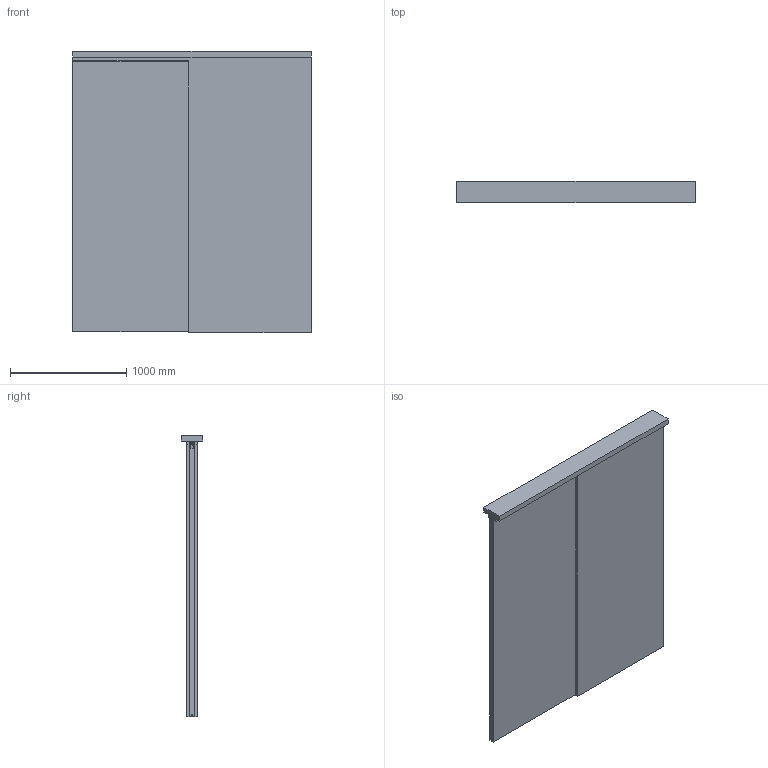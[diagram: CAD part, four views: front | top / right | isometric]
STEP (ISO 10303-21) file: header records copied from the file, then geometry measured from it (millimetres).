
FILE_DESCRIPTION(('STEP AP242'),'1');
FILE_NAME('OPO_65.080.12.stp','2026-01-14T05:25:52',(' '),(' '),'Spatial InterOp 3D',' ',' ');
FILE_SCHEMA(('AP242_MANAGED_MODEL_BASED_3D_ENGINEERING_MIM_LF {1 0 10303 442 1 1 4}'));
Length unit declared in the file: millimetre
Products named in the file (6): Zeichnung2; OPO_65.082.78; OPO_65.080.12_Laufwerk; OPO_65.080.12_Aufhaengung_minimal_Holz; OPO_65.082.75; AutoCreatedBlock_EA
Assembly tree (8 placements, depth 2):
  Zeichnung2
    OPO_65.082.78  x2
    OPO_65.080.12_Laufwerk  x2
    OPO_65.080.12_Aufhaengung_minimal_Holz  x2
    OPO_65.082.75
    AutoCreatedBlock_EA
Bounding box: 2050 x 188 x 2418 mm (x, y, z)
Volume: 213979731.5 mm3; surface area: 17223579.1 mm2
Topology: 66 solids, 66 shells, 1022 faces, 2560 edges, 1696 vertices
Faces by surface type: plane 594, cylinder 404, cone 24
Entity records: 23066 total; most frequent: CARTESIAN_POINT 3230, DIRECTION 3185, ORIENTED_EDGE 3018, EDGE_CURVE 1509, AXIS2_PLACEMENT_3D 1074, LINE 1037, VECTOR 1037, VERTEX_POINT 1000
